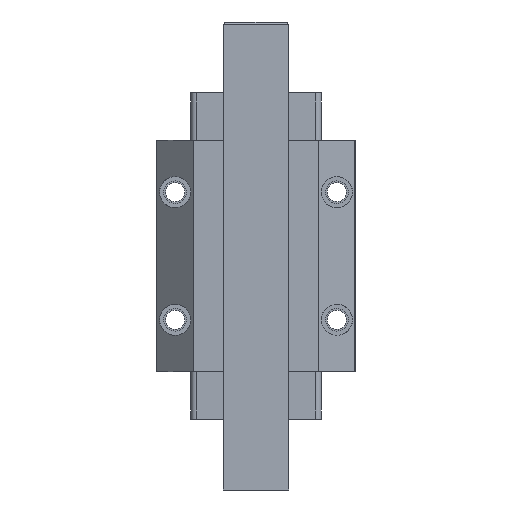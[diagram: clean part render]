
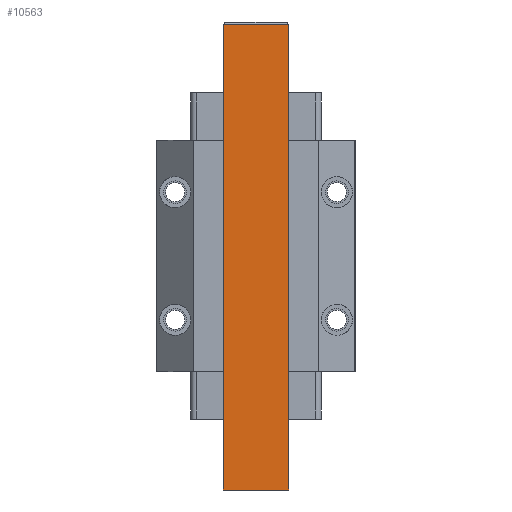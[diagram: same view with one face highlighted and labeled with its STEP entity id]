
A CAD part, front view. The second image highlights one B-rep face of the part: STEP entity #10563.
In plain terms, the highlighted planar face has unit normal (0, -1, 0).
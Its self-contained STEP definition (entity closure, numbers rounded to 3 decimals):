
#9900=DIRECTION('',(1.,0.,0.));
#9901=VECTOR('',#9900,23.);
#9902=CARTESIAN_POINT('',(-11.5,-14.6,-82.5));
#9903=LINE('',#9902,#9901);
#10024=DIRECTION('',(0.,0.,1.));
#10025=VECTOR('',#10024,164.134);
#10026=CARTESIAN_POINT('',(11.5,-14.6,-82.5));
#10027=LINE('',#10026,#10025);
#10028=DIRECTION('',(1.,0.,0.));
#10029=VECTOR('',#10028,23.);
#10030=CARTESIAN_POINT('',(-11.5,-14.6,81.634));
#10031=LINE('',#10030,#10029);
#10032=DIRECTION('',(0.,0.,1.));
#10033=VECTOR('',#10032,164.134);
#10034=CARTESIAN_POINT('',(-11.5,-14.6,-82.5));
#10035=LINE('',#10034,#10033);
#10216=CARTESIAN_POINT('',(11.5,-14.6,81.634));
#10218=VERTEX_POINT('',#10216);
#10220=CARTESIAN_POINT('',(-11.5,-14.6,81.634));
#10222=VERTEX_POINT('',#10220);
#10264=CARTESIAN_POINT('',(-11.5,-14.6,-82.5));
#10265=VERTEX_POINT('',#10264);
#10266=CARTESIAN_POINT('',(11.5,-14.6,-82.5));
#10267=VERTEX_POINT('',#10266);
#10550=CARTESIAN_POINT('',(-11.5,-14.6,-82.5));
#10551=DIRECTION('',(0.,-1.,0.));
#10552=DIRECTION('',(1.,0.,0.));
#10553=AXIS2_PLACEMENT_3D('',#10550,#10551,#10552);
#10554=PLANE('',#10553);
#10556=ORIENTED_EDGE('',*,*,#10555,.T.);
#10557=ORIENTED_EDGE('',*,*,#10545,.F.);
#10558=ORIENTED_EDGE('',*,*,#10305,.F.);
#10560=ORIENTED_EDGE('',*,*,#10559,.T.);
#10561=EDGE_LOOP('',(#10556,#10557,#10558,#10560));
#10562=FACE_OUTER_BOUND('',#10561,.F.);
#10305=EDGE_CURVE('',#10265,#10267,#9903,.T.);
#10545=EDGE_CURVE('',#10267,#10218,#10027,.T.);
#10555=EDGE_CURVE('',#10222,#10218,#10031,.T.);
#10559=EDGE_CURVE('',#10265,#10222,#10035,.T.);
#10563=ADVANCED_FACE('',(#10562),#10554,.T.);
